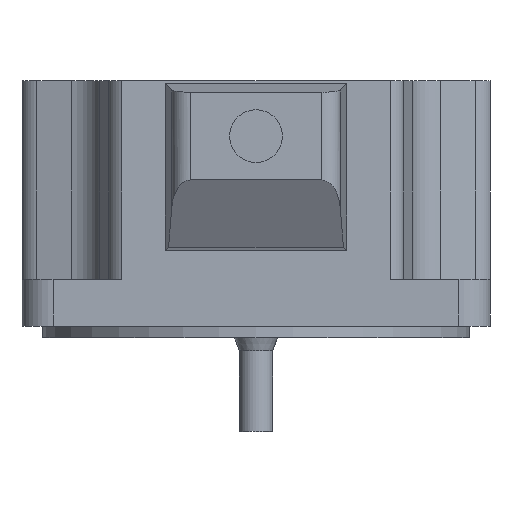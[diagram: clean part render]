
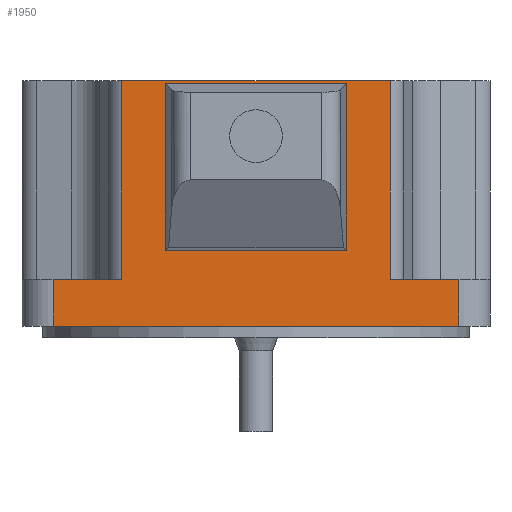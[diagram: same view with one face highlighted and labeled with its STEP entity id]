
A CAD part, front view. The second image highlights one B-rep face of the part: STEP entity #1950.
In plain terms, the highlighted planar face has unit normal (0, -1, 0).
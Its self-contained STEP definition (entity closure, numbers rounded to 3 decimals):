
#9 = EDGE_CURVE ( 'NONE', #54, #576, #505, .T. ) ;
#12 = LINE ( 'NONE', #1525, #887 ) ;
#15 = ORIENTED_EDGE ( 'NONE', *, *, #1433, .F. ) ;
#37 = CARTESIAN_POINT ( 'NONE',  ( -22.98, -40., 8. ) ) ;
#52 = LINE ( 'NONE', #1737, #598 ) ;
#54 = VERTEX_POINT ( 'NONE', #705 ) ;
#67 = LINE ( 'NONE', #1773, #1051 ) ;
#74 = LINE ( 'NONE', #117, #1555 ) ;
#96 = EDGE_CURVE ( 'NONE', #1638, #54, #1832, .T. ) ;
#110 = LINE ( 'NONE', #748, #923 ) ;
#117 = CARTESIAN_POINT ( 'NONE',  ( -40., -40., 0. ) ) ;
#123 = DIRECTION ( 'NONE',  ( 1., 0., 0. ) ) ;
#176 = LINE ( 'NONE', #353, #1891 ) ;
#207 = EDGE_CURVE ( 'NONE', #771, #1155, #934, .T. ) ;
#234 = CARTESIAN_POINT ( 'NONE',  ( 34.7, -40., 8. ) ) ;
#242 = VECTOR ( 'NONE', #496, 1000. ) ;
#262 = CARTESIAN_POINT ( 'NONE',  ( -22.98, -40., 8. ) ) ;
#288 = CARTESIAN_POINT ( 'NONE',  ( -40., -40., 8. ) ) ;
#298 = VERTEX_POINT ( 'NONE', #1641 ) ;
#299 = FACE_OUTER_BOUND ( 'NONE', #1034, .T. ) ;
#300 = VERTEX_POINT ( 'NONE', #262 ) ;
#325 = CARTESIAN_POINT ( 'NONE',  ( 15.5, -40., 13. ) ) ;
#327 = ORIENTED_EDGE ( 'NONE', *, *, #1672, .F. ) ;
#353 = CARTESIAN_POINT ( 'NONE',  ( 22.98, -40., 42. ) ) ;
#393 = ORIENTED_EDGE ( 'NONE', *, *, #1647, .F. ) ;
#440 = ORIENTED_EDGE ( 'NONE', *, *, #96, .F. ) ;
#448 = CARTESIAN_POINT ( 'NONE',  ( 22.98, -40., 42. ) ) ;
#456 = DIRECTION ( 'NONE',  ( 0., 1., 0. ) ) ;
#459 = DIRECTION ( 'NONE',  ( 0., 0., 1. ) ) ;
#480 = LINE ( 'NONE', #37, #1931 ) ;
#496 = DIRECTION ( 'NONE',  ( 1., 0., 0. ) ) ;
#505 = LINE ( 'NONE', #234, #1492 ) ;
#516 = CARTESIAN_POINT ( 'NONE',  ( 22.98, -40., 8. ) ) ;
#576 = VERTEX_POINT ( 'NONE', #1534 ) ;
#598 = VECTOR ( 'NONE', #675, 1000. ) ;
#607 = CARTESIAN_POINT ( 'NONE',  ( -22.98, -40., 42. ) ) ;
#617 = DIRECTION ( 'NONE',  ( -1., 0., 0. ) ) ;
#646 = ORIENTED_EDGE ( 'NONE', *, *, #1754, .F. ) ;
#675 = DIRECTION ( 'NONE',  ( 0., 0., 1. ) ) ;
#705 = CARTESIAN_POINT ( 'NONE',  ( 34.7, -40., 8. ) ) ;
#707 = DIRECTION ( 'NONE',  ( -1., 0., 0. ) ) ;
#743 = CARTESIAN_POINT ( 'NONE',  ( -40., -40., 41.5 ) ) ;
#748 = CARTESIAN_POINT ( 'NONE',  ( -34.7, -40., 8. ) ) ;
#762 = VECTOR ( 'NONE', #617, 1000. ) ;
#771 = VERTEX_POINT ( 'NONE', #973 ) ;
#784 = CARTESIAN_POINT ( 'NONE',  ( -15.5, -40., 41.5 ) ) ;
#818 = EDGE_CURVE ( 'NONE', #1044, #1868, #982, .T. ) ;
#833 = ORIENTED_EDGE ( 'NONE', *, *, #818, .F. ) ;
#887 = VECTOR ( 'NONE', #1227, 1000. ) ;
#906 = PLANE ( 'NONE',  #1594 ) ;
#912 = EDGE_CURVE ( 'NONE', #1900, #771, #67, .T. ) ;
#923 = VECTOR ( 'NONE', #459, 1000. ) ;
#934 = LINE ( 'NONE', #1103, #242 ) ;
#942 = CARTESIAN_POINT ( 'NONE',  ( 15.5, -40., 41.5 ) ) ;
#943 = VERTEX_POINT ( 'NONE', #1609 ) ;
#973 = CARTESIAN_POINT ( 'NONE',  ( -15.5, -40., 13. ) ) ;
#977 = DIRECTION ( 'NONE',  ( 0., 0., -1. ) ) ;
#982 = LINE ( 'NONE', #1121, #1178 ) ;
#992 = ORIENTED_EDGE ( 'NONE', *, *, #1156, .F. ) ;
#1011 = EDGE_CURVE ( 'NONE', #1193, #1900, #1673, .T. ) ;
#1034 = EDGE_LOOP ( 'NONE', ( #1405, #15, #646, #1303, #440, #393, #833, #327 ) ) ;
#1044 = VERTEX_POINT ( 'NONE', #607 ) ;
#1051 = VECTOR ( 'NONE', #1619, 1000. ) ;
#1103 = CARTESIAN_POINT ( 'NONE',  ( -40., -40., 13. ) ) ;
#1121 = CARTESIAN_POINT ( 'NONE',  ( -40., -40., 42. ) ) ;
#1124 = DIRECTION ( 'NONE',  ( 0., 0., -1. ) ) ;
#1155 = VERTEX_POINT ( 'NONE', #325 ) ;
#1156 = EDGE_CURVE ( 'NONE', #1155, #1193, #52, .T. ) ;
#1178 = VECTOR ( 'NONE', #1290, 1000. ) ;
#1193 = VERTEX_POINT ( 'NONE', #942 ) ;
#1219 = CARTESIAN_POINT ( 'NONE',  ( -40., -40., 8. ) ) ;
#1227 = DIRECTION ( 'NONE',  ( 1., 0., 0. ) ) ;
#1260 = EDGE_LOOP ( 'NONE', ( #992, #1454, #1685, #1775 ) ) ;
#1290 = DIRECTION ( 'NONE',  ( 1., 0., 0. ) ) ;
#1303 = ORIENTED_EDGE ( 'NONE', *, *, #9, .F. ) ;
#1401 = DIRECTION ( 'NONE',  ( 0., 0., 1. ) ) ;
#1405 = ORIENTED_EDGE ( 'NONE', *, *, #1897, .F. ) ;
#1433 = EDGE_CURVE ( 'NONE', #298, #943, #110, .T. ) ;
#1454 = ORIENTED_EDGE ( 'NONE', *, *, #207, .F. ) ;
#1492 = VECTOR ( 'NONE', #1124, 1000. ) ;
#1516 = DIRECTION ( 'NONE',  ( 0., 0., 1. ) ) ;
#1525 = CARTESIAN_POINT ( 'NONE',  ( -40., -40., 8. ) ) ;
#1534 = CARTESIAN_POINT ( 'NONE',  ( 34.7, -40., 0. ) ) ;
#1555 = VECTOR ( 'NONE', #707, 1000. ) ;
#1594 = AXIS2_PLACEMENT_3D ( 'NONE', #1219, #456, #1516 ) ;
#1609 = CARTESIAN_POINT ( 'NONE',  ( -34.7, -40., 8. ) ) ;
#1619 = DIRECTION ( 'NONE',  ( 0., 0., -1. ) ) ;
#1638 = VERTEX_POINT ( 'NONE', #516 ) ;
#1641 = CARTESIAN_POINT ( 'NONE',  ( -34.7, -40., 0. ) ) ;
#1647 = EDGE_CURVE ( 'NONE', #1868, #1638, #176, .T. ) ;
#1672 = EDGE_CURVE ( 'NONE', #300, #1044, #480, .T. ) ;
#1673 = LINE ( 'NONE', #743, #762 ) ;
#1675 = FACE_BOUND ( 'NONE', #1260, .T. ) ;
#1685 = ORIENTED_EDGE ( 'NONE', *, *, #912, .F. ) ;
#1717 = VECTOR ( 'NONE', #123, 1000. ) ;
#1737 = CARTESIAN_POINT ( 'NONE',  ( 15.5, -40., 8. ) ) ;
#1754 = EDGE_CURVE ( 'NONE', #576, #298, #74, .T. ) ;
#1773 = CARTESIAN_POINT ( 'NONE',  ( -15.5, -40., 8. ) ) ;
#1775 = ORIENTED_EDGE ( 'NONE', *, *, #1011, .F. ) ;
#1832 = LINE ( 'NONE', #288, #1717 ) ;
#1868 = VERTEX_POINT ( 'NONE', #448 ) ;
#1891 = VECTOR ( 'NONE', #977, 1000. ) ;
#1897 = EDGE_CURVE ( 'NONE', #943, #300, #12, .T. ) ;
#1900 = VERTEX_POINT ( 'NONE', #784 ) ;
#1931 = VECTOR ( 'NONE', #1401, 1000. ) ;
#1950 = ADVANCED_FACE ( 'NONE', ( #1675, #299 ), #906, .F. ) ;
